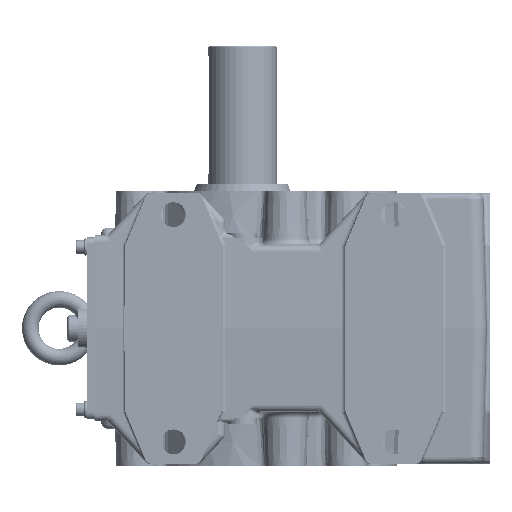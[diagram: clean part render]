
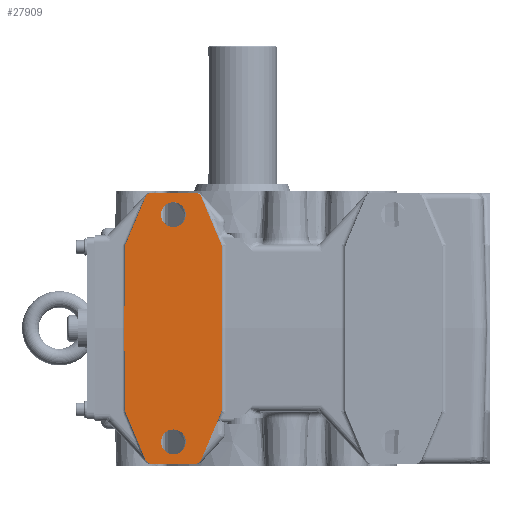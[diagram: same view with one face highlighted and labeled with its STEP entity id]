
A CAD part, left-side view. The second image highlights one B-rep face of the part: STEP entity #27909.
In plain terms, the highlighted planar face has unit normal (-1, 0, 0).
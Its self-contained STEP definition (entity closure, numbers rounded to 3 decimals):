
#27658=CARTESIAN_POINT('',(-112.,50.0,-73.5));
#27659=VERTEX_POINT('',#27658);
#27660=CARTESIAN_POINT('',(-112.,50.0,-82.5));
#27661=DIRECTION('',(1.0,0.0,0.0));
#27662=DIRECTION('',(0.0,0.0,1.0));
#27663=AXIS2_PLACEMENT_3D('',#27660,#27661,#27662);
#27664=CIRCLE('',#27663,9.0);
#27665=EDGE_CURVE('',#27659,#27659,#27664,.T.);
#27686=CARTESIAN_POINT('',(-112.,50.,91.5));
#27687=VERTEX_POINT('',#27686);
#27688=CARTESIAN_POINT('',(-112.,50.,82.5));
#27689=DIRECTION('',(1.0,0.0,0.0));
#27690=DIRECTION('',(0.0,0.0,1.0));
#27691=AXIS2_PLACEMENT_3D('',#27688,#27689,#27690);
#27692=CIRCLE('',#27691,9.0);
#27693=EDGE_CURVE('',#27687,#27687,#27692,.T.);
#27726=CARTESIAN_POINT('',(-112.,-29.479,11.268));
#27727=DIRECTION('',(1.0,0.0,0.0));
#27728=DIRECTION('',(0.0,0.0,-1.0));
#27729=AXIS2_PLACEMENT_3D('',#27726,#27727,#27728);
#27730=PLANE('',#27729);
#27731=CARTESIAN_POINT('',(-112.,85.011,-59.485));
#27732=VERTEX_POINT('',#27731);
#27733=CARTESIAN_POINT('',(-112.,86.064,0.));
#27734=VERTEX_POINT('',#27733);
#27735=CARTESIAN_POINT('',(-112.,87.0,-67.526));
#27736=DIRECTION('',(-1.0,0.0,0.0));
#27737=DIRECTION('',(0.0,0.0,1.0));
#27738=AXIS2_PLACEMENT_3D('',#27735,#27736,#27737);
#27739=ELLIPSE('',#27738,76.403,2.0);
#27740=EDGE_CURVE('',#27732,#27734,#27739,.T.);
#27741=ORIENTED_EDGE('',*,*,#27740,.F.);
#27742=CARTESIAN_POINT('',(-112.,84.614,-61.429));
#27743=VERTEX_POINT('',#27742);
#27744=CARTESIAN_POINT('',(-112.,84.614,-61.429));
#27745=CARTESIAN_POINT('',(-112.,84.744,-61.122));
#27746=CARTESIAN_POINT('',(-112.,84.843,-60.803));
#27747=CARTESIAN_POINT('',(-112.,84.909,-60.477));
#27748=CARTESIAN_POINT('',(-112.,84.976,-60.15));
#27749=CARTESIAN_POINT('',(-112.,85.01,-59.818));
#27750=CARTESIAN_POINT('',(-112.,85.011,-59.485));
#27751=B_SPLINE_CURVE_WITH_KNOTS('',3,(#27744,#27745,#27746,#27747,#27748,#27749,#27750),.UNSPECIFIED.,.F.,.U.,(4,3,4),(-0.2,-0.1,0.0),.UNSPECIFIED.);
#27752=EDGE_CURVE('',#27743,#27732,#27751,.T.);
#27753=ORIENTED_EDGE('',*,*,#27752,.F.);
#27754=CARTESIAN_POINT('',(-112.,82.368,-66.75));
#27755=VERTEX_POINT('',#27754);
#27756=CARTESIAN_POINT('',(-112.,84.212,-67.526));
#27757=DIRECTION('',(-1.0,0.0,0.0));
#27758=DIRECTION('',(0.0,0.388,0.922));
#27759=AXIS2_PLACEMENT_3D('',#27756,#27757,#27758);
#27760=ELLIPSE('',#27759,82.895,2.0);
#27761=EDGE_CURVE('',#27755,#27743,#27760,.T.);
#27762=ORIENTED_EDGE('',*,*,#27761,.F.);
#27763=CARTESIAN_POINT('',(-112.,70.288,-95.44));
#27764=VERTEX_POINT('',#27763);
#27765=CARTESIAN_POINT('',(-112.0,70.288,-95.44));
#27766=DIRECTION('',(0.0,0.388,0.922));
#27767=VECTOR('',#27766,31.13);
#27768=LINE('',#27765,#27767);
#27769=EDGE_CURVE('',#27764,#27755,#27768,.T.);
#27770=ORIENTED_EDGE('',*,*,#27769,.F.);
#27771=CARTESIAN_POINT('',(-112.,65.68,-98.5));
#27772=VERTEX_POINT('',#27771);
#27773=CARTESIAN_POINT('',(-112.,65.68,-93.5));
#27774=DIRECTION('',(1.0,0.0,0.0));
#27775=DIRECTION('',(0.0,0.0,-1.0));
#27776=AXIS2_PLACEMENT_3D('',#27773,#27774,#27775);
#27777=CIRCLE('',#27776,5.0);
#27778=EDGE_CURVE('',#27772,#27764,#27777,.T.);
#27779=ORIENTED_EDGE('',*,*,#27778,.F.);
#27780=CARTESIAN_POINT('',(-112.,34.32,-98.5));
#27781=VERTEX_POINT('',#27780);
#27782=CARTESIAN_POINT('',(-112.,34.32,-98.5));
#27783=DIRECTION('',(0.0,1.0,0.0));
#27784=VECTOR('',#27783,31.36);
#27785=LINE('',#27782,#27784);
#27786=EDGE_CURVE('',#27781,#27772,#27785,.T.);
#27787=ORIENTED_EDGE('',*,*,#27786,.F.);
#27788=CARTESIAN_POINT('',(-112.,29.712,-95.44));
#27789=VERTEX_POINT('',#27788);
#27790=CARTESIAN_POINT('',(-112.,34.32,-93.5));
#27791=DIRECTION('',(1.0,0.0,0.0));
#27792=DIRECTION('',(0.0,0.0,-1.0));
#27793=AXIS2_PLACEMENT_3D('',#27790,#27791,#27792);
#27794=CIRCLE('',#27793,5.0);
#27795=EDGE_CURVE('',#27789,#27781,#27794,.T.);
#27796=ORIENTED_EDGE('',*,*,#27795,.F.);
#27797=CARTESIAN_POINT('',(-112.,15.392,-61.431));
#27798=VERTEX_POINT('',#27797);
#27799=CARTESIAN_POINT('',(-112.,15.392,-61.431));
#27800=DIRECTION('',(0.0,0.388,-0.922));
#27801=VECTOR('',#27800,36.901);
#27802=LINE('',#27799,#27801);
#27803=EDGE_CURVE('',#27798,#27789,#27802,.T.);
#27804=ORIENTED_EDGE('',*,*,#27803,.F.);
#27805=CARTESIAN_POINT('',(-112.,15.0,-59.49));
#27806=VERTEX_POINT('',#27805);
#27807=CARTESIAN_POINT('',(-112.,20.0,-59.49));
#27808=DIRECTION('',(1.0,0.0,0.0));
#27809=DIRECTION('',(0.0,-0.98,-0.198));
#27810=AXIS2_PLACEMENT_3D('',#27807,#27808,#27809);
#27811=CIRCLE('',#27810,5.0);
#27812=EDGE_CURVE('',#27806,#27798,#27811,.T.);
#27813=ORIENTED_EDGE('',*,*,#27812,.F.);
#27814=CARTESIAN_POINT('',(-112.,15.0,59.49));
#27815=VERTEX_POINT('',#27814);
#27816=CARTESIAN_POINT('',(-112.,15.0,59.49));
#27817=DIRECTION('',(0.0,0.0,-1.0));
#27818=VECTOR('',#27817,118.981);
#27819=LINE('',#27816,#27818);
#27820=EDGE_CURVE('',#27815,#27806,#27819,.T.);
#27821=ORIENTED_EDGE('',*,*,#27820,.F.);
#27822=CARTESIAN_POINT('',(-112.,15.392,61.431));
#27823=VERTEX_POINT('',#27822);
#27824=CARTESIAN_POINT('',(-112.,20.0,59.49));
#27825=DIRECTION('',(1.0,0.0,0.0));
#27826=DIRECTION('',(0.0,-0.98,0.198));
#27827=AXIS2_PLACEMENT_3D('',#27824,#27825,#27826);
#27828=CIRCLE('',#27827,5.);
#27829=EDGE_CURVE('',#27823,#27815,#27828,.T.);
#27830=ORIENTED_EDGE('',*,*,#27829,.F.);
#27831=CARTESIAN_POINT('',(-112.,29.712,95.44));
#27832=VERTEX_POINT('',#27831);
#27833=CARTESIAN_POINT('',(-112.,29.712,95.44));
#27834=DIRECTION('',(0.0,-0.388,-0.922));
#27835=VECTOR('',#27834,36.901);
#27836=LINE('',#27833,#27835);
#27837=EDGE_CURVE('',#27832,#27823,#27836,.T.);
#27838=ORIENTED_EDGE('',*,*,#27837,.F.);
#27839=CARTESIAN_POINT('',(-112.,34.32,98.5));
#27840=VERTEX_POINT('',#27839);
#27841=CARTESIAN_POINT('',(-112.,34.32,93.5));
#27842=DIRECTION('',(1.0,0.0,0.0));
#27843=DIRECTION('',(0.0,0.0,1.0));
#27844=AXIS2_PLACEMENT_3D('',#27841,#27842,#27843);
#27845=CIRCLE('',#27844,5.0);
#27846=EDGE_CURVE('',#27840,#27832,#27845,.T.);
#27847=ORIENTED_EDGE('',*,*,#27846,.F.);
#27848=CARTESIAN_POINT('',(-112.,65.68,98.5));
#27849=VERTEX_POINT('',#27848);
#27850=CARTESIAN_POINT('',(-112.,65.68,98.5));
#27851=DIRECTION('',(0.0,-1.0,0.0));
#27852=VECTOR('',#27851,31.36);
#27853=LINE('',#27850,#27852);
#27854=EDGE_CURVE('',#27849,#27840,#27853,.T.);
#27855=ORIENTED_EDGE('',*,*,#27854,.F.);
#27856=CARTESIAN_POINT('',(-112.,70.288,95.44));
#27857=VERTEX_POINT('',#27856);
#27858=CARTESIAN_POINT('',(-112.,65.68,93.5));
#27859=DIRECTION('',(1.0,0.0,0.0));
#27860=DIRECTION('',(0.0,0.0,1.0));
#27861=AXIS2_PLACEMENT_3D('',#27858,#27859,#27860);
#27862=CIRCLE('',#27861,5.0);
#27863=EDGE_CURVE('',#27857,#27849,#27862,.T.);
#27864=ORIENTED_EDGE('',*,*,#27863,.F.);
#27865=CARTESIAN_POINT('',(-112.,82.368,66.75));
#27866=VERTEX_POINT('',#27865);
#27867=CARTESIAN_POINT('',(-112.0,82.368,66.75));
#27868=DIRECTION('',(0.0,-0.388,0.922));
#27869=VECTOR('',#27868,31.13);
#27870=LINE('',#27867,#27869);
#27871=EDGE_CURVE('',#27866,#27857,#27870,.T.);
#27872=ORIENTED_EDGE('',*,*,#27871,.F.);
#27873=CARTESIAN_POINT('',(-112.,84.614,61.429));
#27874=VERTEX_POINT('',#27873);
#27875=CARTESIAN_POINT('',(-112.,84.212,67.526));
#27876=DIRECTION('',(-1.0,0.0,0.0));
#27877=DIRECTION('',(0.0,0.388,-0.922));
#27878=AXIS2_PLACEMENT_3D('',#27875,#27876,#27877);
#27879=ELLIPSE('',#27878,82.895,2.0);
#27880=EDGE_CURVE('',#27874,#27866,#27879,.T.);
#27881=ORIENTED_EDGE('',*,*,#27880,.F.);
#27882=CARTESIAN_POINT('',(-112.,85.011,59.485));
#27883=VERTEX_POINT('',#27882);
#27884=CARTESIAN_POINT('',(-112.,85.011,59.485));
#27885=CARTESIAN_POINT('',(-112.,85.01,59.818));
#27886=CARTESIAN_POINT('',(-112.,84.976,60.151));
#27887=CARTESIAN_POINT('',(-112.,84.909,60.478));
#27888=CARTESIAN_POINT('',(-112.,84.842,60.804));
#27889=CARTESIAN_POINT('',(-112.,84.744,61.123));
#27890=CARTESIAN_POINT('',(-112.,84.614,61.429));
#27891=B_SPLINE_CURVE_WITH_KNOTS('',3,(#27884,#27885,#27886,#27887,#27888,#27889,#27890),.UNSPECIFIED.,.F.,.U.,(4,3,4),(-0.2,-0.1,0.0),.UNSPECIFIED.);
#27892=EDGE_CURVE('',#27883,#27874,#27891,.T.);
#27893=ORIENTED_EDGE('',*,*,#27892,.F.);
#27894=CARTESIAN_POINT('',(-112.,87.0,67.526));
#27895=DIRECTION('',(-1.0,0.0,0.0));
#27896=DIRECTION('',(0.0,0.0,-1.0));
#27897=AXIS2_PLACEMENT_3D('',#27894,#27895,#27896);
#27898=ELLIPSE('',#27897,76.403,2.0);
#27899=EDGE_CURVE('',#27734,#27883,#27898,.T.);
#27900=ORIENTED_EDGE('',*,*,#27899,.F.);
#27901=EDGE_LOOP('',(#27741,#27753,#27762,#27770,#27779,#27787,#27796,#27804,#27813,#27821,#27830,#27838,#27847,#27855,#27864,#27872,#27881,#27893,#27900));
#27902=FACE_OUTER_BOUND('',#27901,.T.);
#27903=ORIENTED_EDGE('',*,*,#27665,.T.);
#27904=EDGE_LOOP('',(#27903));
#27905=FACE_BOUND('',#27904,.T.);
#27906=ORIENTED_EDGE('',*,*,#27693,.T.);
#27907=EDGE_LOOP('',(#27906));
#27908=FACE_BOUND('',#27907,.T.);
#27909=ADVANCED_FACE('',(#27902,#27905,#27908),#27730,.F.);
